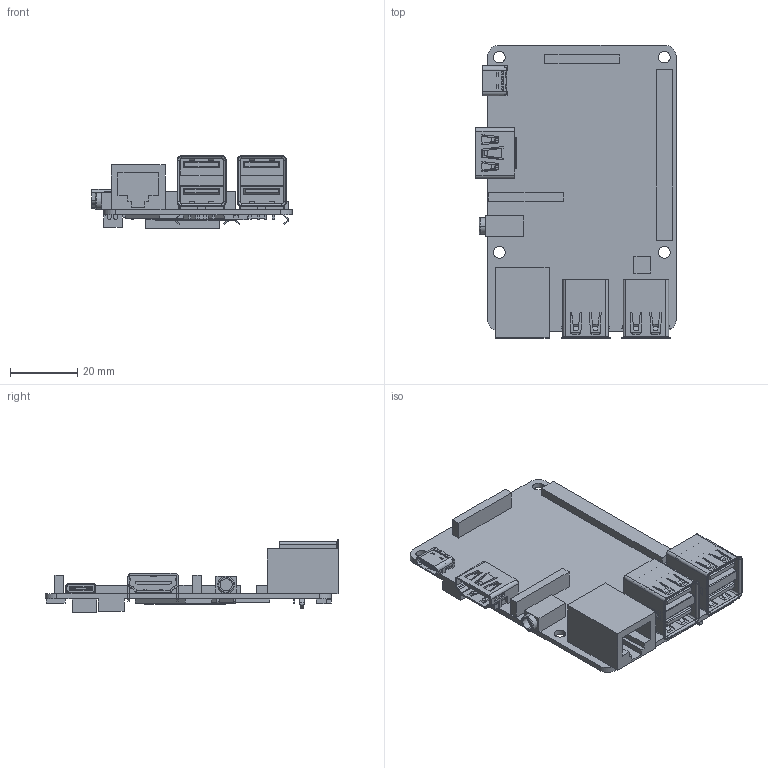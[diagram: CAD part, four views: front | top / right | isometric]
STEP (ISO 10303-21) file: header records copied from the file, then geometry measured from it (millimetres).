
FILE_DESCRIPTION((''),'2;1');
FILE_NAME('PCB_ASM_4_ASM','2021-06-22T16:14:35',('Administrator'),(''),'CREO PARAMETRIC BY PTC INC, 2020033','CREO PARAMETRIC BY PTC INC, 2020033','');
FILE_SCHEMA(('CONFIG_CONTROL_DESIGN'));
Length unit declared in the file: millimetre
Products named in the file (7): PRT0001_10; 123123_1; 2-USB_1; PRT0007_1; PJ3200_PJ320F_ST001_2; USB-16PIN-TYPEC_FIN_1_252; PCB_ASM_4_ASM
Assembly tree (7 placements, depth 2):
  PCB_ASM_4_ASM
    PRT0001_10
    123123_1
    2-USB_1  x2
    PRT0007_1
    PJ3200_PJ320F_ST001_2
    USB-16PIN-TYPEC_FIN_1_252
Bounding box: 59.5 x 87.25 x 21.65 mm (x, y, z)
Volume: 19856.2 mm3; surface area: 22346.9 mm2
Topology: 7 solids, 7 shells, 1543 faces, 4389 edges, 2894 vertices
Faces by surface type: plane 1189, cylinder 318, torus 18, extrusion 8, bspline 6, cone 4
Entity records: 43340 total; most frequent: CARTESIAN_POINT 8361, ORIENTED_EDGE 7498, DIRECTION 6905, EDGE_CURVE 3749, VECTOR 3051, LINE 3043, VERTEX_POINT 2478, AXIS2_PLACEMENT_3D 1927
